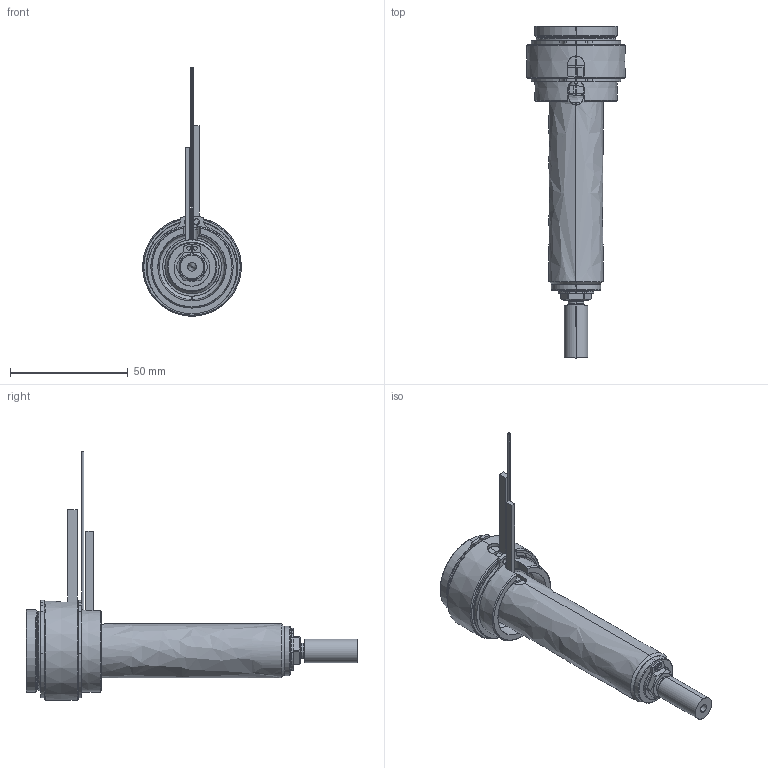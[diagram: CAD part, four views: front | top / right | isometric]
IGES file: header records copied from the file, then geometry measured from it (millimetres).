
Start section: SolidWorks IGES file using analytic representation for surfaces
Global section: file name: C:\Users\luca.EMPAD\Desktop\TEM\UGBE3502-S-A-P-3 [Ød-1.0 P-20 ØC-7.0].IGS; native system: SolidWorks 2012; preprocessor: SolidWorks 2012; author: luca; date: 120330.140435; units: millimetre
Bounding box: 42 x 141 x 105.6 mm (x, y, z)
Surface area: 29444.1 mm2 (no closed solid volume)
Topology: 0 solids, 0 shells, 187 faces, 3502 edges, 3502 vertices
Faces by surface type: revolution 119, bspline 68
